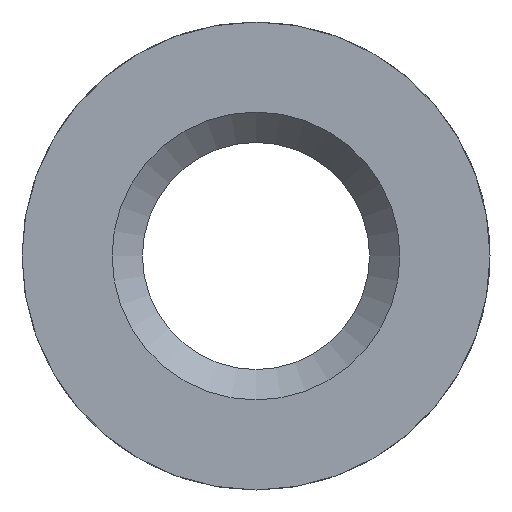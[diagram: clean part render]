
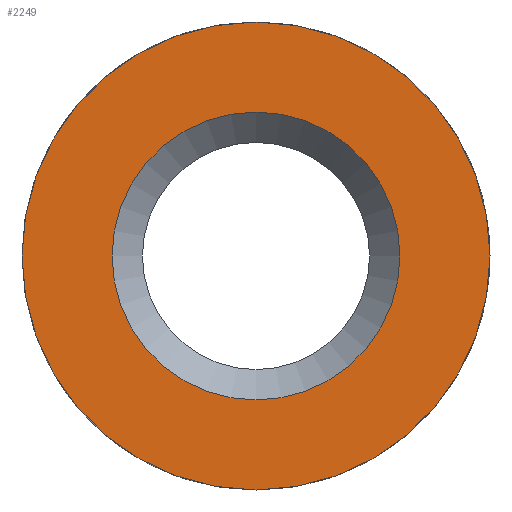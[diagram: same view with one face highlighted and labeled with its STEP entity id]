
A CAD part, left-side view. The second image highlights one B-rep face of the part: STEP entity #2249.
In plain terms, the highlighted planar face has unit normal (-1, 0, 0).
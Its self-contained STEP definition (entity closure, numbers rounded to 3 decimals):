
#1153 = CYLINDRICAL_SURFACE('',#1154,2.463);
#1154 = AXIS2_PLACEMENT_3D('',#1155,#1156,#1157);
#1155 = CARTESIAN_POINT('',(2.15,0.,0.));
#1156 = DIRECTION('',(1.,0.,0.));
#1157 = DIRECTION('',(-0.,1.,0.));
#2020 = CONICAL_SURFACE('',#2021,1.515,0.785);
#2021 = AXIS2_PLACEMENT_3D('',#2022,#2023,#2024);
#2022 = CARTESIAN_POINT('',(3.03,0.,0.));
#2023 = DIRECTION('',(1.,0.,0.));
#2024 = DIRECTION('',(0.,-1.,0.));
#2040 = VERTEX_POINT('',#2041);
#2041 = CARTESIAN_POINT('',(0.,1.515,0.));
#2061 = EDGE_CURVE('',#2040,#2040,#2062,.T.);
#2062 = SURFACE_CURVE('',#2063,(#2068,#2075),.PCURVE_S1.);
#2063 = CIRCLE('',#2064,1.515);
#2064 = AXIS2_PLACEMENT_3D('',#2065,#2066,#2067);
#2065 = CARTESIAN_POINT('',(0.,0.,0.));
#2066 = DIRECTION('',(1.,0.,0.));
#2067 = DIRECTION('',(0.,1.,0.));
#2068 = PCURVE('',#2020,#2069);
#2069 = DEFINITIONAL_REPRESENTATION('',(#2070),#2074);
#2070 = LINE('',#2071,#2072);
#2071 = CARTESIAN_POINT('',(0.,-3.03));
#2072 = VECTOR('',#2073,1.);
#2073 = DIRECTION('',(1.,0.));
#2074 = ( GEOMETRIC_REPRESENTATION_CONTEXT(2) 
PARAMETRIC_REPRESENTATION_CONTEXT() REPRESENTATION_CONTEXT('2D SPACE',''
  ) );
#2075 = PCURVE('',#2076,#2081);
#2076 = PLANE('',#2077);
#2077 = AXIS2_PLACEMENT_3D('',#2078,#2079,#2080);
#2078 = CARTESIAN_POINT('',(0.,0.,0.));
#2079 = DIRECTION('',(1.,0.,0.));
#2080 = DIRECTION('',(0.,0.,-1.));
#2081 = DEFINITIONAL_REPRESENTATION('',(#2082),#2086);
#2082 = CIRCLE('',#2083,1.515);
#2083 = AXIS2_PLACEMENT_2D('',#2084,#2085);
#2084 = CARTESIAN_POINT('',(0.,0.));
#2085 = DIRECTION('',(0.,1.));
#2086 = ( GEOMETRIC_REPRESENTATION_CONTEXT(2) 
PARAMETRIC_REPRESENTATION_CONTEXT() REPRESENTATION_CONTEXT('2D SPACE',''
  ) );
#2141 = EDGE_CURVE('',#2142,#2142,#2144,.T.);
#2142 = VERTEX_POINT('',#2143);
#2143 = CARTESIAN_POINT('',(0.,2.463,0.));
#2144 = SURFACE_CURVE('',#2145,(#2150,#2157),.PCURVE_S1.);
#2145 = CIRCLE('',#2146,2.463);
#2146 = AXIS2_PLACEMENT_3D('',#2147,#2148,#2149);
#2147 = CARTESIAN_POINT('',(0.,0.,0.));
#2148 = DIRECTION('',(1.,0.,0.));
#2149 = DIRECTION('',(-0.,1.,0.));
#2150 = PCURVE('',#1153,#2151);
#2151 = DEFINITIONAL_REPRESENTATION('',(#2152),#2156);
#2152 = LINE('',#2153,#2154);
#2153 = CARTESIAN_POINT('',(0.,-2.15));
#2154 = VECTOR('',#2155,1.);
#2155 = DIRECTION('',(1.,0.));
#2156 = ( GEOMETRIC_REPRESENTATION_CONTEXT(2) 
PARAMETRIC_REPRESENTATION_CONTEXT() REPRESENTATION_CONTEXT('2D SPACE',''
  ) );
#2157 = PCURVE('',#2076,#2158);
#2158 = DEFINITIONAL_REPRESENTATION('',(#2159),#2163);
#2159 = CIRCLE('',#2160,2.463);
#2160 = AXIS2_PLACEMENT_2D('',#2161,#2162);
#2161 = CARTESIAN_POINT('',(0.,0.));
#2162 = DIRECTION('',(0.,1.));
#2163 = ( GEOMETRIC_REPRESENTATION_CONTEXT(2) 
PARAMETRIC_REPRESENTATION_CONTEXT() REPRESENTATION_CONTEXT('2D SPACE',''
  ) );
#2249 = ADVANCED_FACE('',(#2250,#2253),#2076,.F.);
#2250 = FACE_BOUND('',#2251,.T.);
#2251 = EDGE_LOOP('',(#2252));
#2252 = ORIENTED_EDGE('',*,*,#2061,.T.);
#2253 = FACE_BOUND('',#2254,.T.);
#2254 = EDGE_LOOP('',(#2255));
#2255 = ORIENTED_EDGE('',*,*,#2141,.F.);
